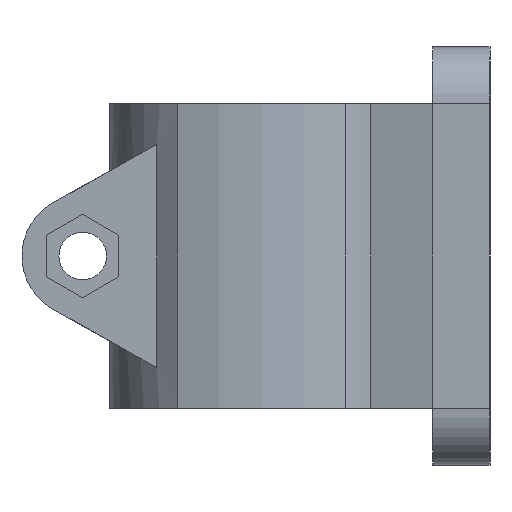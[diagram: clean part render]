
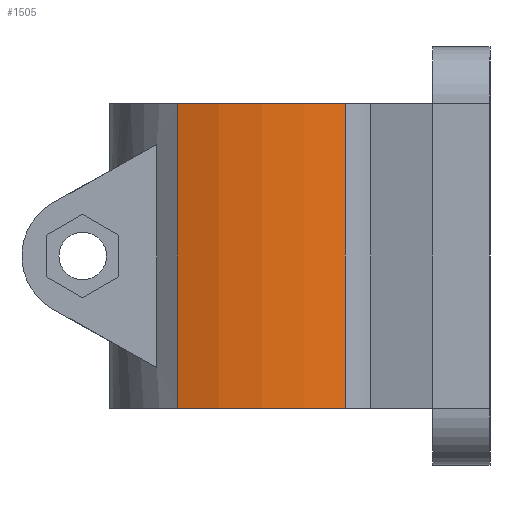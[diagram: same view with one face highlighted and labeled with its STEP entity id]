
A CAD part, left-side view. The second image highlights one B-rep face of the part: STEP entity #1505.
In plain terms, the highlighted cylindrical face has radius 65 mm (diameter 130 mm), a partial arc.
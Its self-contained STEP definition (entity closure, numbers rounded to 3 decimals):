
#355 = CARTESIAN_POINT ( 'NONE',  ( -36.164, 82., 40. ) ) ;
#360 = DIRECTION ( 'NONE',  ( 1., 0., 0. ) ) ;
#361 = DIRECTION ( 'NONE',  ( 0., 0., 1. ) ) ;
#362 = CARTESIAN_POINT ( 'NONE',  ( 25., 60., 40. ) ) ;
#363 = AXIS2_PLACEMENT_3D ( 'NONE', #362, #361, #360 ) ;
#365 = CYLINDRICAL_SURFACE ( 'NONE', #363, 65. ) ;
#366 = FACE_OUTER_BOUND ( 'NONE', #1503, .T. ) ;
#367 = CARTESIAN_POINT ( 'NONE',  ( -36.164, 82., -40. ) ) ;
#368 = DIRECTION ( 'NONE',  ( 0., 0., -1. ) ) ;
#369 = VECTOR ( 'NONE', #368, 1000. ) ;
#370 = CARTESIAN_POINT ( 'NONE',  ( -36.164, 82., 40. ) ) ;
#371 = LINE ( 'NONE', #370, #369 ) ;
#1500 = EDGE_CURVE ( 'NONE', #1510, #1504, #371, .T. ) ;
#1501 = ORIENTED_EDGE ( 'NONE', *, *, #1879, .F. ) ;
#1503 = EDGE_LOOP ( 'NONE', ( #1501, #1876, #1873, #1872 ) ) ;
#1504 = VERTEX_POINT ( 'NONE', #367 ) ;
#1505 = ADVANCED_FACE ( 'NONE', ( #366 ), #365, .T. ) ;
#1510 = VERTEX_POINT ( 'NONE', #355 ) ;
#1871 = EDGE_CURVE ( 'NONE', #1878, #1874, #2425, .T. ) ;
#1872 = ORIENTED_EDGE ( 'NONE', *, *, #1871, .F. ) ;
#1873 = ORIENTED_EDGE ( 'NONE', *, *, #1877, .T. ) ;
#1874 = VERTEX_POINT ( 'NONE', #2421 ) ;
#1876 = ORIENTED_EDGE ( 'NONE', *, *, #1500, .T. ) ;
#1877 = EDGE_CURVE ( 'NONE', #1504, #1874, #2420, .T. ) ;
#1878 = VERTEX_POINT ( 'NONE', #2415 ) ;
#1879 = EDGE_CURVE ( 'NONE', #1510, #1878, #2414, .T. ) ;
#2410 = DIRECTION ( 'NONE',  ( 1., 0., 0. ) ) ;
#2411 = DIRECTION ( 'NONE',  ( 0., 0., 1. ) ) ;
#2412 = CARTESIAN_POINT ( 'NONE',  ( 25., 60., 40. ) ) ;
#2413 = AXIS2_PLACEMENT_3D ( 'NONE', #2412, #2411, #2410 ) ;
#2414 = CIRCLE ( 'NONE', #2413, 65. ) ;
#2415 = CARTESIAN_POINT ( 'NONE',  ( -36.164, 38., 40. ) ) ;
#2416 = DIRECTION ( 'NONE',  ( 1., 0., 0. ) ) ;
#2417 = DIRECTION ( 'NONE',  ( 0., 0., 1. ) ) ;
#2418 = CARTESIAN_POINT ( 'NONE',  ( 25., 60., -40. ) ) ;
#2419 = AXIS2_PLACEMENT_3D ( 'NONE', #2418, #2417, #2416 ) ;
#2420 = CIRCLE ( 'NONE', #2419, 65. ) ;
#2421 = CARTESIAN_POINT ( 'NONE',  ( -36.164, 38., -40. ) ) ;
#2422 = DIRECTION ( 'NONE',  ( 0., 0., -1. ) ) ;
#2423 = VECTOR ( 'NONE', #2422, 1000. ) ;
#2424 = CARTESIAN_POINT ( 'NONE',  ( -36.164, 38., 40. ) ) ;
#2425 = LINE ( 'NONE', #2424, #2423 ) ;
